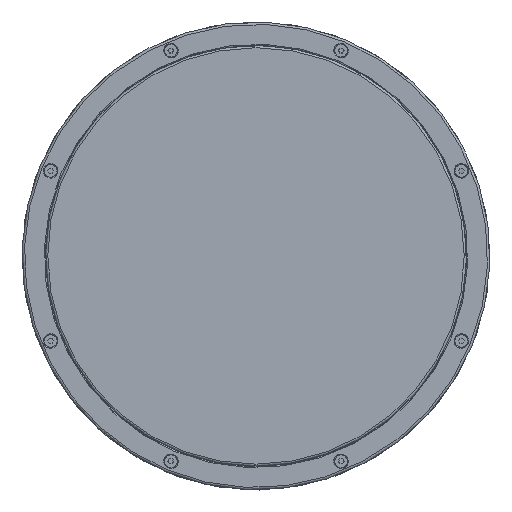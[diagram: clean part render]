
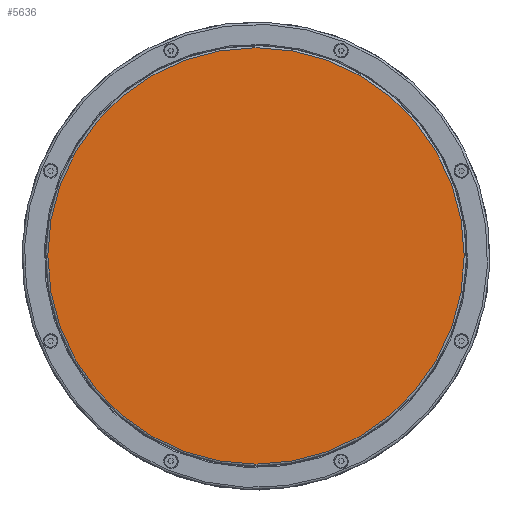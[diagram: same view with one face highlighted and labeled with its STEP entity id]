
A CAD part, top view. The second image highlights one B-rep face of the part: STEP entity #5636.
In plain terms, the highlighted planar face has unit normal (0, 0, 1).
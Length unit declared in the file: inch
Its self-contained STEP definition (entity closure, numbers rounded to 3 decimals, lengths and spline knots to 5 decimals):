
#1042 = FACE_OUTER_BOUND ( 'NONE', #5786, .T. ) ;
#4485 = DIRECTION ( 'NONE',  ( 1., 0., 0. ) ) ;
#5636 = ADVANCED_FACE ( 'NONE', ( #1042 ), #26484, .T. ) ;
#5786 = EDGE_LOOP ( 'NONE', ( #10323 ) ) ;
#6638 = CARTESIAN_POINT ( 'NONE',  ( -0.23065, 1.96935, 0.49213 ) ) ;
#7340 = CIRCLE ( 'NONE', #19308, 3.50394 ) ;
#7459 = CARTESIAN_POINT ( 'NONE',  ( -0.23065, 1.96935, 0.49213 ) ) ;
#9557 = DIRECTION ( 'NONE',  ( 1., 0., 0. ) ) ;
#10323 = ORIENTED_EDGE ( 'NONE', *, *, #15416, .T. ) ;
#15416 = EDGE_CURVE ( 'NONE', #21804, #21804, #7340, .T. ) ;
#17661 = AXIS2_PLACEMENT_3D ( 'NONE', #6638, #19195, #4485 ) ;
#18697 = CARTESIAN_POINT ( 'NONE',  ( 3.27329, 1.96935, 0.49213 ) ) ;
#19195 = DIRECTION ( 'NONE',  ( 0., 0., 1. ) ) ;
#19308 = AXIS2_PLACEMENT_3D ( 'NONE', #7459, #22143, #9557 ) ;
#21804 = VERTEX_POINT ( 'NONE', #18697 ) ;
#22143 = DIRECTION ( 'NONE',  ( 0., 0., 1. ) ) ;
#26484 = PLANE ( 'NONE',  #17661 ) ;
